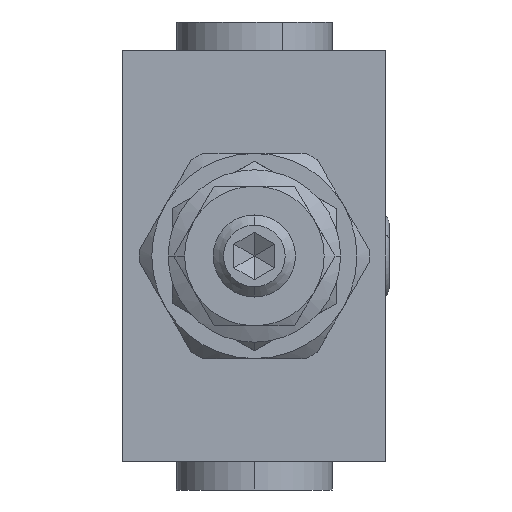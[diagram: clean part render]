
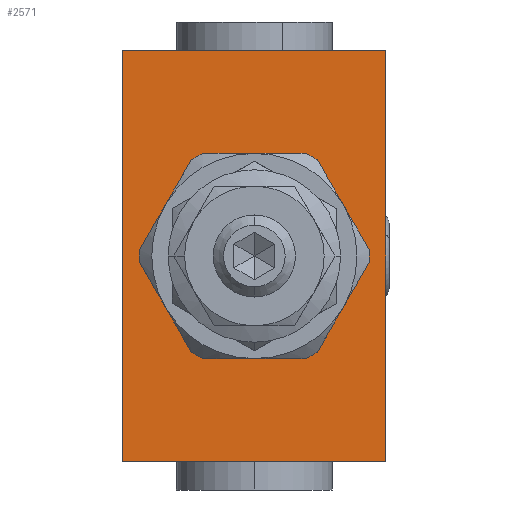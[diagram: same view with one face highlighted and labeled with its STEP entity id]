
A CAD part, left-side view. The second image highlights one B-rep face of the part: STEP entity #2571.
In plain terms, the highlighted planar face has unit normal (-1, 0, 0).
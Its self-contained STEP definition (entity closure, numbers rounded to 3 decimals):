
#159=DIRECTION('',(0.,1.,0.));
#160=VECTOR('',#159,32.);
#161=CARTESIAN_POINT('',(-43.5,-16.,25.));
#162=LINE('',#161,#160);
#166=CARTESIAN_POINT('',(-43.5,0.,0.));
#167=DIRECTION('',(1.,0.,0.));
#168=DIRECTION('',(0.,0.,-1.));
#169=AXIS2_PLACEMENT_3D('',#166,#167,#168);
#174=CARTESIAN_POINT('',(-43.5,0.,0.));
#175=DIRECTION('',(1.,0.,0.));
#176=DIRECTION('',(0.,0.,1.));
#177=AXIS2_PLACEMENT_3D('',#174,#175,#176);
#182=DIRECTION('',(0.,1.,0.));
#183=VECTOR('',#182,32.);
#184=CARTESIAN_POINT('',(-43.5,-16.,-25.));
#185=LINE('',#184,#183);
#315=DIRECTION('',(0.,0.,1.));
#316=VECTOR('',#315,50.);
#317=CARTESIAN_POINT('',(-43.5,16.,-25.));
#318=LINE('',#317,#316);
#455=DIRECTION('',(0.,0.,-1.));
#456=VECTOR('',#455,50.);
#457=CARTESIAN_POINT('',(-43.5,-16.,25.));
#458=LINE('',#457,#456);
#2168=CARTESIAN_POINT('',(-43.5,-16.,-25.));
#2169=CARTESIAN_POINT('',(-43.5,16.,-25.));
#2170=VERTEX_POINT('',#2168);
#2171=VERTEX_POINT('',#2169);
#2177=CARTESIAN_POINT('',(-43.5,-16.,25.));
#2178=CARTESIAN_POINT('',(-43.5,16.,25.));
#2179=VERTEX_POINT('',#2177);
#2180=VERTEX_POINT('',#2178);
#2207=CARTESIAN_POINT('',(-43.5,0.,-12.5));
#2208=VERTEX_POINT('',#2207);
#2335=CARTESIAN_POINT('',(-43.5,0.,12.5));
#2336=VERTEX_POINT('',#2335);
#2551=CARTESIAN_POINT('',(-43.5,-16.,-25.));
#2552=DIRECTION('',(-1.,0.,0.));
#2553=DIRECTION('',(0.,0.,1.));
#2554=AXIS2_PLACEMENT_3D('',#2551,#2552,#2553);
#2555=PLANE('',#2554);
#2557=ORIENTED_EDGE('',*,*,#2556,.T.);
#2559=ORIENTED_EDGE('',*,*,#2558,.T.);
#2561=ORIENTED_EDGE('',*,*,#2560,.F.);
#2563=ORIENTED_EDGE('',*,*,#2562,.T.);
#2564=EDGE_LOOP('',(#2557,#2559,#2561,#2563));
#2565=FACE_OUTER_BOUND('',#2564,.F.);
#2566=ORIENTED_EDGE('',*,*,#2537,.F.);
#2568=ORIENTED_EDGE('',*,*,#2567,.F.);
#2569=EDGE_LOOP('',(#2566,#2568));
#2570=FACE_BOUND('',#2569,.F.);
#2571=ADVANCED_FACE('',(#2565,#2570),#2555,.T.);
#170=CIRCLE('',#169,12.5);
#178=CIRCLE('',#177,12.5);
#2537=EDGE_CURVE('',#2208,#2336,#170,.T.);
#2556=EDGE_CURVE('',#2170,#2171,#185,.T.);
#2558=EDGE_CURVE('',#2171,#2180,#318,.T.);
#2560=EDGE_CURVE('',#2179,#2180,#162,.T.);
#2562=EDGE_CURVE('',#2179,#2170,#458,.T.);
#2567=EDGE_CURVE('',#2336,#2208,#178,.T.);
